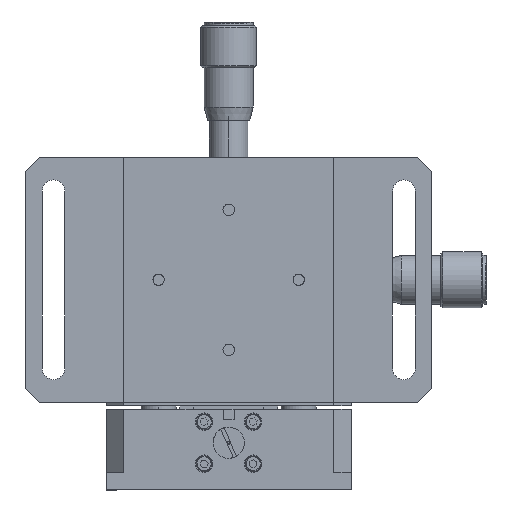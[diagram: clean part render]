
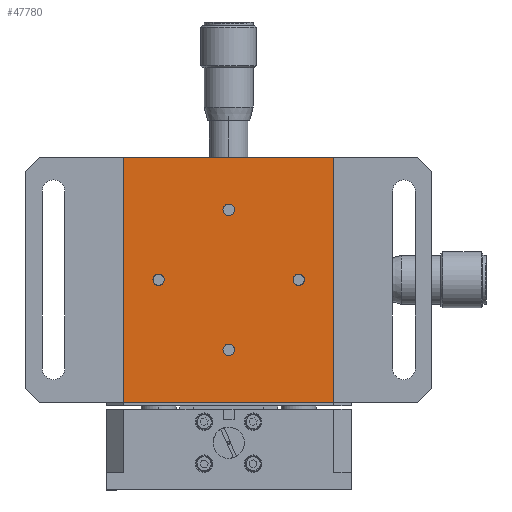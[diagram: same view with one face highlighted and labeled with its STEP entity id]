
A CAD part, front view. The second image highlights one B-rep face of the part: STEP entity #47780.
In plain terms, the highlighted planar face has unit normal (0, -1, 0).
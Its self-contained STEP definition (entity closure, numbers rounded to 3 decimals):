
#1637 = CARTESIAN_POINT ( 'NONE',  ( 44.379, 0.988, 15. ) ) ;
#1638 = DIRECTION ( 'NONE',  ( -1., 0., 0. ) ) ;
#1640 = DIRECTION ( 'NONE',  ( 0., 1., 0. ) ) ;
#1642 = AXIS2_PLACEMENT_3D ( 'NONE', #1653, #1640, #1638 ) ;
#1644 = CIRCLE ( 'NONE', #1642, 1.621 ) ;
#1653 = CARTESIAN_POINT ( 'NONE',  ( 46., 0.988, 15. ) ) ;
#1665 = CARTESIAN_POINT ( 'NONE',  ( 47.621, 0.988, 15. ) ) ;
#1703 = CARTESIAN_POINT ( 'NONE',  ( 44.379, 0.988, 55. ) ) ;
#1704 = CARTESIAN_POINT ( 'NONE',  ( 47.621, 0.988, 55. ) ) ;
#1705 = DIRECTION ( 'NONE',  ( -1., 0., 0. ) ) ;
#1707 = DIRECTION ( 'NONE',  ( 0., 1., 0. ) ) ;
#1710 = AXIS2_PLACEMENT_3D ( 'NONE', #1720, #1707, #1705 ) ;
#1712 = CIRCLE ( 'NONE', #1710, 1.621 ) ;
#1720 = CARTESIAN_POINT ( 'NONE',  ( 46., 0.988, 55. ) ) ;
#1824 = CARTESIAN_POINT ( 'NONE',  ( 64.379, 0.988, 35. ) ) ;
#1825 = CARTESIAN_POINT ( 'NONE',  ( 67.621, 0.988, 35. ) ) ;
#1826 = DIRECTION ( 'NONE',  ( -1., 0., 0. ) ) ;
#1828 = DIRECTION ( 'NONE',  ( 0., 1., 0. ) ) ;
#1830 = CARTESIAN_POINT ( 'NONE',  ( 66., 0.988, 35. ) ) ;
#1831 = AXIS2_PLACEMENT_3D ( 'NONE', #1830, #1828, #1826 ) ;
#1833 = CIRCLE ( 'NONE', #1831, 1.621 ) ;
#1898 = CARTESIAN_POINT ( 'NONE',  ( 24.379, 0.988, 35. ) ) ;
#1901 = CARTESIAN_POINT ( 'NONE',  ( 27.621, 0.988, 35. ) ) ;
#1903 = DIRECTION ( 'NONE',  ( -1., 0., 0. ) ) ;
#1904 = DIRECTION ( 'NONE',  ( 0., 1., 0. ) ) ;
#1905 = AXIS2_PLACEMENT_3D ( 'NONE', #1919, #1904, #1903 ) ;
#1906 = CIRCLE ( 'NONE', #1905, 1.621 ) ;
#1919 = CARTESIAN_POINT ( 'NONE',  ( 26., 0.988, 35. ) ) ;
#2247 = CARTESIAN_POINT ( 'NONE',  ( 76., 0.988, 0. ) ) ;
#2313 = DIRECTION ( 'NONE',  ( -1., 0., 0. ) ) ;
#2315 = DIRECTION ( 'NONE',  ( 0., 1., 0. ) ) ;
#2317 = CARTESIAN_POINT ( 'NONE',  ( 66., 0.988, 35. ) ) ;
#2318 = AXIS2_PLACEMENT_3D ( 'NONE', #2317, #2315, #2313 ) ;
#2327 = CIRCLE ( 'NONE', #2318, 1.621 ) ;
#2336 = DIRECTION ( 'NONE',  ( -1., 0., 0. ) ) ;
#2337 = DIRECTION ( 'NONE',  ( 0., 1., 0. ) ) ;
#2338 = CARTESIAN_POINT ( 'NONE',  ( 46., 0.988, 15. ) ) ;
#2339 = AXIS2_PLACEMENT_3D ( 'NONE', #2338, #2337, #2336 ) ;
#2340 = CIRCLE ( 'NONE', #2339, 1.621 ) ;
#2358 = CARTESIAN_POINT ( 'NONE',  ( 76., 0.988, 70. ) ) ;
#2411 = DIRECTION ( 'NONE',  ( -1., 0., 0. ) ) ;
#2412 = DIRECTION ( 'NONE',  ( 0., 1., 0. ) ) ;
#2413 = CARTESIAN_POINT ( 'NONE',  ( 26., 0.988, 35. ) ) ;
#2414 = AXIS2_PLACEMENT_3D ( 'NONE', #2413, #2412, #2411 ) ;
#2415 = CIRCLE ( 'NONE', #2414, 1.621 ) ;
#2452 = DIRECTION ( 'NONE',  ( 0., 0., 1. ) ) ;
#2453 = VECTOR ( 'NONE', #2452, 1000. ) ;
#2456 = CARTESIAN_POINT ( 'NONE',  ( 76., 0.988, 0. ) ) ;
#2457 = LINE ( 'NONE', #2456, #2453 ) ;
#2520 = DIRECTION ( 'NONE',  ( -1., 0., 0. ) ) ;
#2522 = DIRECTION ( 'NONE',  ( 0., 1., 0. ) ) ;
#2523 = CARTESIAN_POINT ( 'NONE',  ( 46., 0.988, 55. ) ) ;
#2524 = AXIS2_PLACEMENT_3D ( 'NONE', #2523, #2522, #2520 ) ;
#2533 = CIRCLE ( 'NONE', #2524, 1.621 ) ;
#2565 = CARTESIAN_POINT ( 'NONE',  ( 16., 0.988, 70. ) ) ;
#2566 = DIRECTION ( 'NONE',  ( 0., 0., -1. ) ) ;
#2568 = VECTOR ( 'NONE', #2566, 1000. ) ;
#2569 = CARTESIAN_POINT ( 'NONE',  ( 16., 0.988, 0. ) ) ;
#2571 = LINE ( 'NONE', #2569, #2568 ) ;
#2574 = CARTESIAN_POINT ( 'NONE',  ( 16., 0.988, 0. ) ) ;
#4887 = DIRECTION ( 'NONE',  ( 1., 0., 0. ) ) ;
#4888 = VECTOR ( 'NONE', #4887, 1000. ) ;
#4889 = CARTESIAN_POINT ( 'NONE',  ( 81., 0.988, 70. ) ) ;
#4891 = LINE ( 'NONE', #4889, #4888 ) ;
#4895 = DIRECTION ( 'NONE',  ( -1., 0., 0. ) ) ;
#4896 = VECTOR ( 'NONE', #4895, 1000. ) ;
#4897 = CARTESIAN_POINT ( 'NONE',  ( 11., 0.988, 0. ) ) ;
#4899 = LINE ( 'NONE', #4897, #4896 ) ;
#4900 = DIRECTION ( 'NONE',  ( 1., 0., 0. ) ) ;
#4902 = DIRECTION ( 'NONE',  ( 0., -1., 0. ) ) ;
#4903 = CARTESIAN_POINT ( 'NONE',  ( 76., 0.988, 0. ) ) ;
#4905 = AXIS2_PLACEMENT_3D ( 'NONE', #4903, #4902, #4900 ) ;
#4907 = PLANE ( 'NONE',  #4905 ) ;
#4911 = FACE_BOUND ( 'NONE', #47773, .T. ) ;
#4912 = FACE_BOUND ( 'NONE', #47770, .T. ) ;
#4913 = FACE_BOUND ( 'NONE', #47767, .T. ) ;
#4914 = FACE_BOUND ( 'NONE', #47764, .T. ) ;
#4916 = FACE_OUTER_BOUND ( 'NONE', #47781, .T. ) ;
#39782 = EDGE_CURVE ( 'NONE', #39810, #39783, #1644, .T. ) ;
#39783 = VERTEX_POINT ( 'NONE', #1637 ) ;
#39797 = EDGE_CURVE ( 'NONE', #39798, #39799, #1712, .T. ) ;
#39798 = VERTEX_POINT ( 'NONE', #1704 ) ;
#39799 = VERTEX_POINT ( 'NONE', #1703 ) ;
#39810 = VERTEX_POINT ( 'NONE', #1665 ) ;
#39836 = EDGE_CURVE ( 'NONE', #39837, #39838, #1833, .T. ) ;
#39837 = VERTEX_POINT ( 'NONE', #1825 ) ;
#39838 = VERTEX_POINT ( 'NONE', #1824 ) ;
#39849 = EDGE_CURVE ( 'NONE', #39850, #39851, #1906, .T. ) ;
#39850 = VERTEX_POINT ( 'NONE', #1901 ) ;
#39851 = VERTEX_POINT ( 'NONE', #1898 ) ;
#47073 = VERTEX_POINT ( 'NONE', #2247 ) ;
#47080 = VERTEX_POINT ( 'NONE', #2358 ) ;
#47087 = EDGE_CURVE ( 'NONE', #39783, #39810, #2340, .T. ) ;
#47096 = EDGE_CURVE ( 'NONE', #39838, #39837, #2327, .T. ) ;
#47104 = EDGE_CURVE ( 'NONE', #39851, #39850, #2415, .T. ) ;
#47132 = EDGE_CURVE ( 'NONE', #47073, #47080, #2457, .T. ) ;
#47147 = EDGE_CURVE ( 'NONE', #39799, #39798, #2533, .T. ) ;
#47170 = VERTEX_POINT ( 'NONE', #2574 ) ;
#47172 = EDGE_CURVE ( 'NONE', #47173, #47170, #2571, .T. ) ;
#47173 = VERTEX_POINT ( 'NONE', #2565 ) ;
#47763 = ORIENTED_EDGE ( 'NONE', *, *, #47172, .T. ) ;
#47764 = EDGE_LOOP ( 'NONE', ( #47765, #47766 ) ) ;
#47765 = ORIENTED_EDGE ( 'NONE', *, *, #47147, .T. ) ;
#47766 = ORIENTED_EDGE ( 'NONE', *, *, #39797, .T. ) ;
#47767 = EDGE_LOOP ( 'NONE', ( #47768, #47769 ) ) ;
#47768 = ORIENTED_EDGE ( 'NONE', *, *, #47087, .T. ) ;
#47769 = ORIENTED_EDGE ( 'NONE', *, *, #39782, .T. ) ;
#47770 = EDGE_LOOP ( 'NONE', ( #47771, #47772 ) ) ;
#47771 = ORIENTED_EDGE ( 'NONE', *, *, #47104, .T. ) ;
#47772 = ORIENTED_EDGE ( 'NONE', *, *, #39849, .T. ) ;
#47773 = EDGE_LOOP ( 'NONE', ( #47774, #47830 ) ) ;
#47774 = ORIENTED_EDGE ( 'NONE', *, *, #47096, .T. ) ;
#47780 = ADVANCED_FACE ( 'NONE', ( #4916, #4914, #4913, #4912, #4911 ), #4907, .T. ) ;
#47781 = EDGE_LOOP ( 'NONE', ( #47782, #47784, #47785, #47763 ) ) ;
#47782 = ORIENTED_EDGE ( 'NONE', *, *, #47783, .F. ) ;
#47783 = EDGE_CURVE ( 'NONE', #47073, #47170, #4899, .T. ) ;
#47784 = ORIENTED_EDGE ( 'NONE', *, *, #47132, .T. ) ;
#47785 = ORIENTED_EDGE ( 'NONE', *, *, #47786, .F. ) ;
#47786 = EDGE_CURVE ( 'NONE', #47173, #47080, #4891, .T. ) ;
#47830 = ORIENTED_EDGE ( 'NONE', *, *, #39836, .T. ) ;
